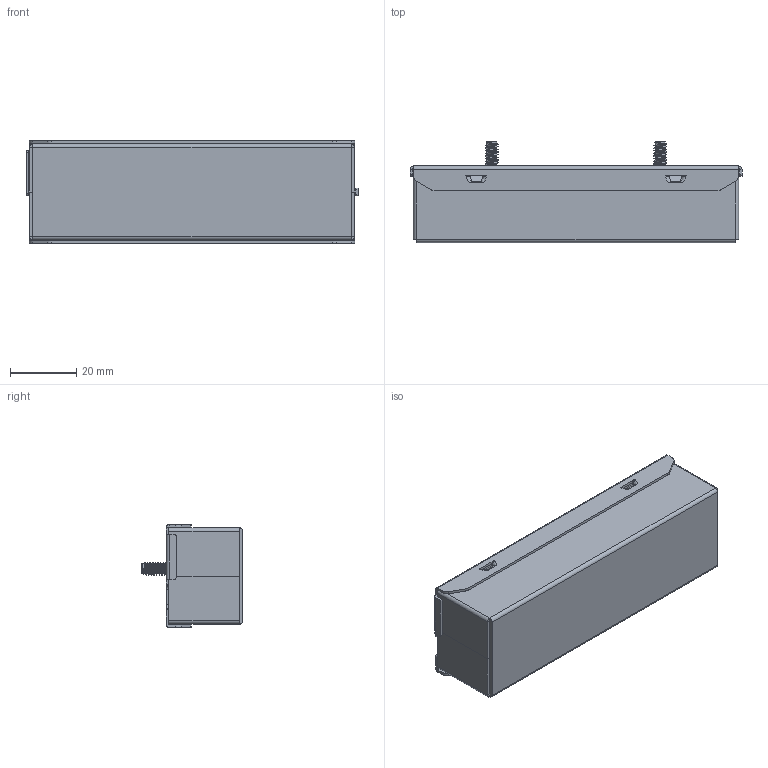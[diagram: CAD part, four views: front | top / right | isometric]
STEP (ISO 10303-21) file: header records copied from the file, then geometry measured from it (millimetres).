
FILE_DESCRIPTION((''),'2;1');
FILE_NAME('SEC030M_CASE_XIACHUXIAN_ASM','2025-08-26T11:10:28',('Administrator'),(''),'CREO PARAMETRIC BY PTC INC, 2020053','CREO PARAMETRIC BY PTC INC, 2020053','');
FILE_SCHEMA(('CONFIG_CONTROL_DESIGN','SHAPE_APPEARANCE_LAYERS_GROUPS'));
Length unit declared in the file: inch
Products named in the file (4): SLC030M-BOTTOM_XIACHUXIAN; SLC030M-TOP_XIACHUXIAN; LUOZHU-M4; SEC030M_CASE_XIACHUXIAN_ASM
Assembly tree (4 placements, depth 2):
  SEC030M_CASE_XIACHUXIAN_ASM
    SLC030M-BOTTOM_XIACHUXIAN
    SLC030M-TOP_XIACHUXIAN
    LUOZHU-M4  x2
Bounding box: 100 x 30.6 x 31 mm (x, y, z)
Volume: 11461.3 mm3; surface area: 25508.9 mm2
Topology: 4 solids, 4 shells, 316 faces, 768 edges, 462 vertices
Faces by surface type: plane 138, cylinder 126, bspline 48, cone 4
Entity records: 16631 total; most frequent: CARTESIAN_POINT 6225, ORIENTED_EDGE 1354, DIRECTION 1192, PRESENTATION_STYLE_ASSIGNMENT 961, STYLED_ITEM 961, CURVE_STYLE 677, EDGE_CURVE 677, VECTOR 434
